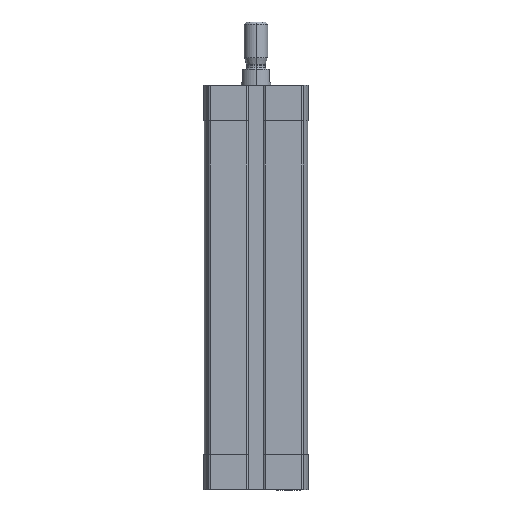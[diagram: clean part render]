
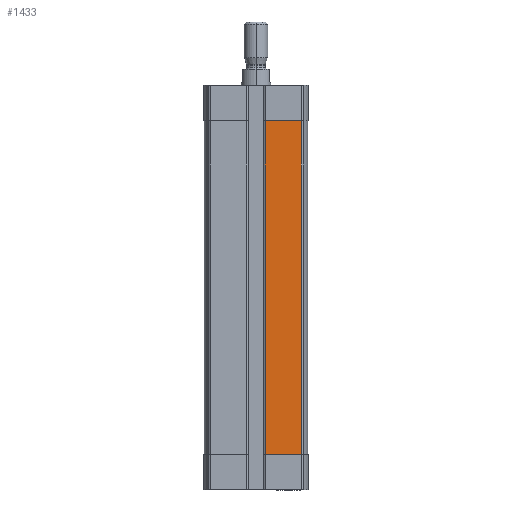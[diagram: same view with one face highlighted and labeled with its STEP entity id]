
A CAD part, left-side view. The second image highlights one B-rep face of the part: STEP entity #1433.
In plain terms, the highlighted planar face has unit normal (-1, 0, 0).
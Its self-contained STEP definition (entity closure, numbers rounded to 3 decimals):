
#62 = CARTESIAN_POINT ( 'NONE',  ( -17.5, -3.1, -125. ) ) ;
#141 = VERTEX_POINT ( 'NONE', #62 ) ;
#183 = VECTOR ( 'NONE', #10795, 1000. ) ;
#311 = VECTOR ( 'NONE', #4805, 1000. ) ;
#313 = EDGE_CURVE ( 'NONE', #4134, #12224, #11304, .T. ) ;
#551 = CARTESIAN_POINT ( 'NONE',  ( -17.5, -3.1, -125. ) ) ;
#620 = LINE ( 'NONE', #12521, #8385 ) ;
#751 = CARTESIAN_POINT ( 'NONE',  ( -17.5, -15.253, -12. ) ) ;
#1317 = AXIS2_PLACEMENT_3D ( 'NONE', #8522, #3359, #6834 ) ;
#1378 = DIRECTION ( 'NONE',  ( 0., 1., 0. ) ) ;
#1433 = ADVANCED_FACE ( 'NONE', ( #9240 ), #6563, .T. ) ;
#3088 = CARTESIAN_POINT ( 'NONE',  ( -17.5, -15.253, -125. ) ) ;
#3359 = DIRECTION ( 'NONE',  ( -1., 0., 0. ) ) ;
#3630 = EDGE_CURVE ( 'NONE', #141, #11194, #8721, .T. ) ;
#4134 = VERTEX_POINT ( 'NONE', #3088 ) ;
#4619 = ORIENTED_EDGE ( 'NONE', *, *, #7996, .T. ) ;
#4805 = DIRECTION ( 'NONE',  ( 0., 0., 1. ) ) ;
#5675 = ORIENTED_EDGE ( 'NONE', *, *, #313, .T. ) ;
#5806 = LINE ( 'NONE', #551, #11240 ) ;
#6117 = CARTESIAN_POINT ( 'NONE',  ( -17.5, -15.253, -125. ) ) ;
#6563 = PLANE ( 'NONE',  #1317 ) ;
#6834 = DIRECTION ( 'NONE',  ( 0., 0., 1. ) ) ;
#7449 = CARTESIAN_POINT ( 'NONE',  ( -17.5, -3.1, -12. ) ) ;
#7583 = ORIENTED_EDGE ( 'NONE', *, *, #3630, .F. ) ;
#7634 = DIRECTION ( 'NONE',  ( 0., -1., 0. ) ) ;
#7996 = EDGE_CURVE ( 'NONE', #12224, #11194, #620, .T. ) ;
#8385 = VECTOR ( 'NONE', #1378, 1000. ) ;
#8448 = ORIENTED_EDGE ( 'NONE', *, *, #9194, .T. ) ;
#8522 = CARTESIAN_POINT ( 'NONE',  ( -17.5, -3.1, -125. ) ) ;
#8721 = LINE ( 'NONE', #11945, #311 ) ;
#9194 = EDGE_CURVE ( 'NONE', #141, #4134, #5806, .T. ) ;
#9240 = FACE_OUTER_BOUND ( 'NONE', #11889, .T. ) ;
#10795 = DIRECTION ( 'NONE',  ( 0., 0., 1. ) ) ;
#11194 = VERTEX_POINT ( 'NONE', #7449 ) ;
#11240 = VECTOR ( 'NONE', #7634, 1000. ) ;
#11304 = LINE ( 'NONE', #6117, #183 ) ;
#11889 = EDGE_LOOP ( 'NONE', ( #8448, #5675, #4619, #7583 ) ) ;
#11945 = CARTESIAN_POINT ( 'NONE',  ( -17.5, -3.1, -125. ) ) ;
#12224 = VERTEX_POINT ( 'NONE', #751 ) ;
#12521 = CARTESIAN_POINT ( 'NONE',  ( -17.5, 0., -12. ) ) ;
